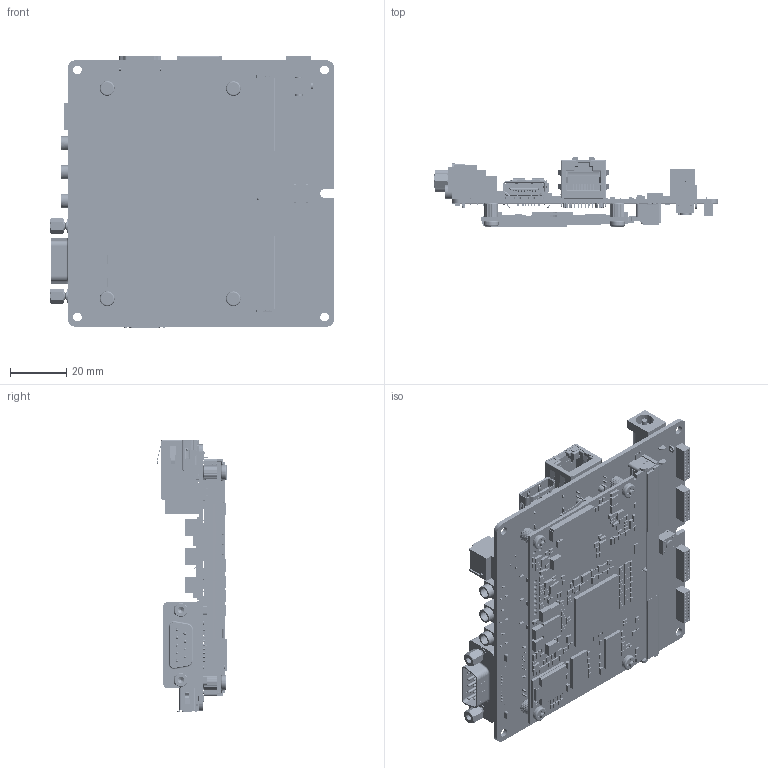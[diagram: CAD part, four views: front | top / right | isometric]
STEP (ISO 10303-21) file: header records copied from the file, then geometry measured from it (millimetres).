
FILE_DESCRIPTION((''),'2;1');
FILE_NAME('WB-IMX6DL-9377_ASM','2021-03-04T',('gary'),(''),'CREO PARAMETRIC BY PTC INC, 2014350','CREO PARAMETRIC BY PTC INC, 2014350','');
FILE_SCHEMA(('AUTOMOTIVE_DESIGN { 1 0 10303 214 1 1 1 1 }'));
Products named in the file (108): TN49_PCB; DTS-61N_V; FEMALE_HEADER_180_DIP; DC_JACK_KD-014-L; KRJ-14462-108XX; PJD_035_43A01; SHHORTPIN_4N_7; SHHORTPIN_4N_6; SHHORTPIN_4N_5; SHHORTPIN_4N_4; SHHORTPIN_4N_3; SHHORTPIN_4N_2; SHHORTPIN_4N_1; SHHORTPIN_4N; SHHORTPIN_4N_8; SHORT_4N_ASM; SHELL_4N; LONGPIN_4N; LONGPIN_4N_1; LONGPIN_4N_2; LONGPIN_4N_3; LONGPIN_4N_4; LONGPIN_4N_5; LONGPIN_4N_6; LONGPIN_4N_7; LONGPIN_4N_8; LONGPIN_4N_9; LONG_4N_ASM; HOUSING_4N; 51U-321N_ASM_1_ASM; MSBR-14; MSBR-13; MSBR-12; MSBR-11; MSBR-10; MSBR-9; MSBR-8; MSBR-7; MSBR-6; MSBR-5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
Assembly tree (897 placements, depth 5):
  WB-IMX6DL-9377_ASM
    TN49_WAND_ASM
      TN49_PCB
      DTS-61N_V
      FEMALE_HEADER_180_DIP  x4
      DC_JACK_KD-014-L
      KRJ-14462-108XX
      PJD_035_43A01  x3
      51U-321N_ASM_1_ASM
        SHORT_4N_ASM
          SHHORTPIN_4N_7
          SHHORTPIN_4N_6
          SHHORTPIN_4N_5
          SHHORTPIN_4N_4
          SHHORTPIN_4N_3
          SHHORTPIN_4N_2
          SHHORTPIN_4N_1
          SHHORTPIN_4N
          SHHORTPIN_4N_8
        SHELL_4N
        LONG_4N_ASM
          LONGPIN_4N
          LONGPIN_4N_1
          LONGPIN_4N_2
          LONGPIN_4N_3
          LONGPIN_4N_4
          LONGPIN_4N_5
          LONGPIN_4N_6
          LONGPIN_4N_7
          LONGPIN_4N_8
          LONGPIN_4N_9
        HOUSING_4N
      MWCSD03S012R_ASM
        MSBR-14
        MSBR-13
        MSBR-12
        MSBR-11
        MSBR-10
        MSBR-9
        MSBR-8
        MSBR-7
        MSBR-6
        MSBR-5
        MSBR-4
        MSBR-3
        MSBR-2
        MSBR-1
      ASOB82X-XH_317-0000-S78B-X-1_
      NUT_M3_1  x4
      SATA_CONNECTOR_1
      SPDIF_1
      SATA_POWER_2X2P
      SD9P_CONNECTON_ASM
        SD9P_WITH_CLINCH_NUTS_ANY_4
        3AA05-004__200_HEX_HEIGHT_ANY_1  x2
      MIN_USB_MBD10
      USB30
      TN49_0304_ASM
        DL-41_AC
        TP20T  x4
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Bounding box: 101.41 x 25.04 x 96.9 mm (x, y, z)
Volume: 39006.5 mm3; surface area: 67684.6 mm2
Topology: 890 solids, 890 shells, 15771 faces, 44270 edges, 30392 vertices
Faces by surface type: plane 13124, cylinder 2152, cone 163, bspline 148, torus 123, extrusion 31, sphere 26, revolution 4
Entity records: 469780 total; most frequent: CARTESIAN_POINT 73413, DIRECTION 57287, ORIENTED_EDGE 54022, PRESENTATION_STYLE_ASSIGNMENT 30740, STYLED_ITEM 30734, CURVE_STYLE 30675, EDGE_CURVE 27011, VECTOR 25333
